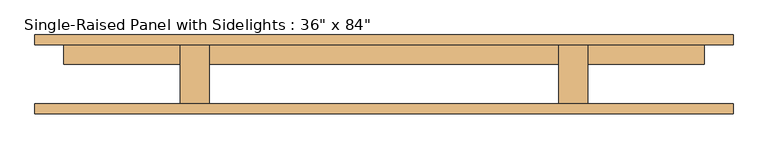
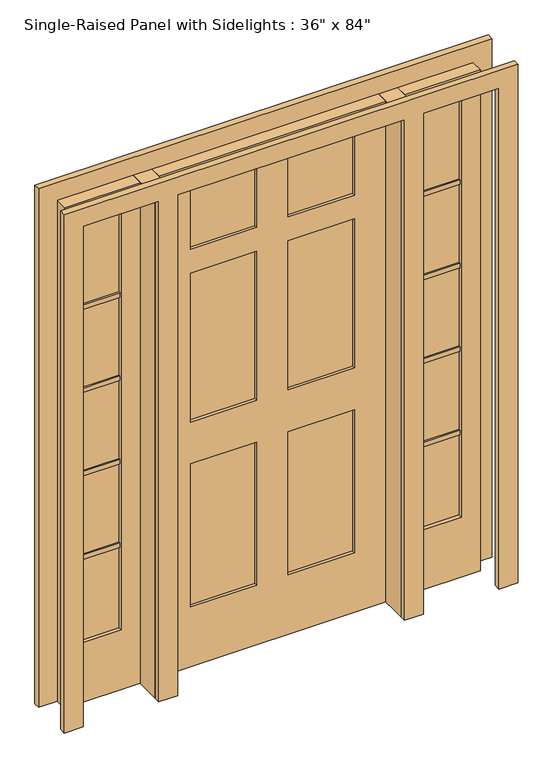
"""IFC4 building model written with IfcOpenShell, lengths in millimetres: door geometry."""

from ifc_helpers import new_model, si_unit, frame, origin, origin_with_axes, place, context, project, spatial, polyline, outline, extrude, source, transform, mapped, element, save


def door_5449110c(model_context):
    return source(origin(), model_context, "Body", "SweptSolid", [
        extrude(outline(polyline([(762.0, 36.5125), (609.6, 36.5125), (609.6, 68.2625), (762.0, 68.2625), (762.0, 36.5125)])), frame((0.0, 0.0, 600.075), z_axis=(0.0, 0.0, 1.0), x_axis=(1.0, 0.0, 0.0)), (0.0, 0.0, 1.0), 19.05),
        extrude(outline(polyline([(762.0, 36.5125), (609.6, 36.5125), (609.6, 68.2625), (762.0, 68.2625), (762.0, 36.5125)])), frame((0.0, 0.0, 955.675), z_axis=(0.0, 0.0, 1.0), x_axis=(1.0, 0.0, 0.0)), (0.0, 0.0, 1.0), 19.05),
        extrude(outline(polyline([(762.0, 36.5125), (609.6, 36.5125), (609.6, 68.2625), (762.0, 68.2625), (762.0, 36.5125)])), frame((0.0, 0.0, 1311.275), z_axis=(0.0, 0.0, 1.0), x_axis=(1.0, 0.0, 0.0)), (0.0, 0.0, 1.0), 19.05),
        extrude(outline(polyline([(762.0, 36.5125), (609.6, 36.5125), (609.6, 68.2625), (762.0, 68.2625), (762.0, 36.5125)])), frame((0.0, 0.0, 1666.875), z_axis=(0.0, 0.0, 1.0), x_axis=(1.0, 0.0, 0.0)), (0.0, 0.0, 1.0), 19.05),
        extrude(outline(polyline([(-609.6, 36.5125), (-762.0, 36.5125), (-762.0, 68.2625), (-609.6, 68.2625), (-609.6, 36.5125)])), frame((0.0, 0.0, 1666.875), z_axis=(0.0, 0.0, 1.0), x_axis=(1.0, 0.0, 0.0)), (0.0, 0.0, 1.0), 19.05),
        extrude(outline(polyline([(-609.6, 36.5125), (-762.0, 36.5125), (-762.0, 68.2625), (-609.6, 68.2625), (-609.6, 36.5125)])), frame((0.0, 0.0, 1311.275), z_axis=(0.0, 0.0, 1.0), x_axis=(1.0, 0.0, 0.0)), (0.0, 0.0, 1.0), 19.05),
        extrude(outline(polyline([(-609.6, 36.5125), (-762.0, 36.5125), (-762.0, 68.2625), (-609.6, 68.2625), (-609.6, 36.5125)])), frame((0.0, 0.0, 955.675), z_axis=(0.0, 0.0, 1.0), x_axis=(1.0, 0.0, 0.0)), (0.0, 0.0, 1.0), 19.05),
        extrude(outline(polyline([(-609.6, 36.5125), (-762.0, 36.5125), (-762.0, 68.2625), (-609.6, 68.2625), (-609.6, 36.5125)])), frame((0.0, 0.0, 600.075), z_axis=(0.0, 0.0, 1.0), x_axis=(1.0, 0.0, 0.0)), (0.0, 0.0, 1.0), 19.05),
        extrude(outline(polyline([(762.0, 42.8625), (609.6, 42.8625), (609.6, 61.9125), (762.0, 61.9125), (762.0, 42.8625)])), frame((0.0, 0.0, 254.0), z_axis=(0.0, 0.0, 1.0), x_axis=(1.0, 0.0, 0.0)), (0.0, 0.0, 1.0), 1778.0),
        extrude(outline(polyline([(-609.6, 42.8625), (-762.0, 42.8625), (-762.0, 61.9125), (-609.6, 61.9125), (-609.6, 42.8625)])), frame((0.0, 0.0, 254.0), z_axis=(0.0, 0.0, 1.0), x_axis=(1.0, 0.0, 0.0)), (0.0, 0.0, 1.0), 1778.0),
        extrude(outline(polyline([(-457.2, -77.7875), (-533.4, -77.7875), (-533.4, 77.7875), (-457.2, 77.7875), (-457.2, -77.7875)])), origin_with_axes(), (0.0, 0.0, 1.0), 2133.6),
        extrude(outline(polyline([(533.4, -77.7875), (457.2, -77.7875), (457.2, 77.7875), (533.4, 77.7875), (533.4, -77.7875)])), origin_with_axes(), (0.0, 0.0, 1.0), 2133.6),
        extrude(outline(polyline([(2133.6, -533.4), (2133.6, -838.2), (0.0, -838.2), (0.0, -533.4), (2133.6, -533.4)]), holes=[polyline([(2032.0, -609.6), (254.0, -609.6), (254.0, -762.0), (2032.0, -762.0), (2032.0, -609.6)])]), frame((0.0, 26.9875, 0.0), z_axis=(0.0, 1.0, 0.0), x_axis=(0.0, 0.0, 1.0)), (0.0, 0.0, 1.0), 50.8),
        extrude(outline(polyline([(0.0, 533.4), (0.0, 838.2), (2133.6, 838.2), (2133.6, 533.4), (0.0, 533.4)]), holes=[polyline([(2032.0, 762.0), (254.0, 762.0), (254.0, 609.6), (2032.0, 609.6), (2032.0, 762.0)])]), frame((0.0, 26.9875, 0.0), z_axis=(0.0, 1.0, 0.0), x_axis=(0.0, 0.0, 1.0)), (0.0, 0.0, 1.0), 50.8),
        extrude(outline(polyline([(0.0, -914.4), (0.0, -838.2), (2133.6, -838.2), (2133.6, -533.4), (0.0, -533.4), (0.0, -457.2), (2133.6, -457.2), (2133.6, 457.2), (0.0, 457.2), (0.0, 533.4), (2133.6, 533.4), (2133.6, 838.2), (0.0, 838.2), (0.0, 914.4), (2209.8, 914.4), (2209.8, -914.4), (0.0, -914.4)])), frame((0.0, -103.1875, 0.0), z_axis=(0.0, 1.0, 0.0), x_axis=(0.0, 0.0, 1.0)), (0.0, 0.0, 1.0), 25.4),
        extrude(outline(polyline([(0.0, 914.4), (2209.8, 914.4), (2209.8, -914.4), (0.0, -914.4), (0.0, -838.2), (2133.6, -838.2), (2133.6, -533.4), (0.0, -533.4), (0.0, -457.2), (2133.6, -457.2), (2133.6, 457.2), (0.0, 457.2), (0.0, 533.4), (2133.6, 533.4), (2133.6, 838.2), (0.0, 838.2), (0.0, 914.4)])), frame((0.0, 77.7875, 0.0), z_axis=(0.0, 1.0, 0.0), x_axis=(0.0, 0.0, 1.0)), (0.0, 0.0, 1.0), 25.4),
        extrude(outline(polyline([(-63.5, 39.6875), (-330.2, 39.6875), (-330.2, 65.0875), (-63.5, 65.0875), (-63.5, 39.6875)])), frame((0.0, 0.0, 1778.0), z_axis=(0.0, 0.0, 1.0), x_axis=(1.0, 0.0, 0.0)), (0.0, 0.0, 1.0), 254.0),
        extrude(outline(polyline([(330.2, 39.6875), (63.5, 39.6875), (63.5, 65.0875), (330.2, 65.0875), (330.2, 39.6875)])), frame((0.0, 0.0, 1778.0), z_axis=(0.0, 0.0, 1.0), x_axis=(1.0, 0.0, 0.0)), (0.0, 0.0, 1.0), 254.0),
        extrude(outline(polyline([(-63.5, 39.6875), (-330.2, 39.6875), (-330.2, 65.0875), (-63.5, 65.0875), (-63.5, 39.6875)])), frame((0.0, 0.0, 1041.4), z_axis=(0.0, 0.0, 1.0), x_axis=(1.0, 0.0, 0.0)), (0.0, 0.0, 1.0), 635.0),
        extrude(outline(polyline([(330.2, 39.6875), (63.5, 39.6875), (63.5, 65.0875), (330.2, 65.0875), (330.2, 39.6875)])), frame((0.0, 0.0, 1041.4), z_axis=(0.0, 0.0, 1.0), x_axis=(1.0, 0.0, 0.0)), (0.0, 0.0, 1.0), 635.0),
        extrude(outline(polyline([(-63.5, 39.6875), (-330.2, 39.6875), (-330.2, 65.0875), (-63.5, 65.0875), (-63.5, 39.6875)])), frame((0.0, 0.0, 254.0), z_axis=(0.0, 0.0, 1.0), x_axis=(1.0, 0.0, 0.0)), (0.0, 0.0, 1.0), 609.6),
        extrude(outline(polyline([(330.2, 39.6875), (63.5, 39.6875), (63.5, 65.0875), (330.2, 65.0875), (330.2, 39.6875)])), frame((0.0, 0.0, 254.0), z_axis=(0.0, 0.0, 1.0), x_axis=(1.0, 0.0, 0.0)), (0.0, 0.0, 1.0), 609.6),
        extrude(outline(polyline([(2133.6, 457.2), (2133.6, -457.2), (0.0, -457.2), (0.0, 457.2), (2133.6, 457.2)]), holes=[polyline([(2032.0, -63.5), (1778.0, -63.5), (1778.0, -330.2), (2032.0, -330.2), (2032.0, -63.5)]), polyline([(2032.0, 330.2), (1778.0, 330.2), (1778.0, 63.5), (2032.0, 63.5), (2032.0, 330.2)]), polyline([(1676.4, -63.5), (1041.4, -63.5), (1041.4, -330.2), (1676.4, -330.2), (1676.4, -63.5)]), polyline([(1676.4, 330.2), (1041.4, 330.2), (1041.4, 63.5), (1676.4, 63.5), (1676.4, 330.2)]), polyline([(863.6, -63.5), (254.0, -63.5), (254.0, -330.2), (863.6, -330.2), (863.6, -63.5)]), polyline([(863.6, 330.2), (254.0, 330.2), (254.0, 63.5), (863.6, 63.5), (863.6, 330.2)])]), frame((0.0, 26.9875, 0.0), z_axis=(0.0, 1.0, 0.0), x_axis=(0.0, 0.0, 1.0)), (0.0, 0.0, 1.0), 50.8),
    ])


if __name__ == "__main__":
    model = new_model("IFC4")
    model_context = context("Model", 3, world=origin())
    ifc_project = project(units=[si_unit("LENGTHUNIT", "METRE", prefix="MILLI")], contexts=[model_context])
    site = spatial("IfcSite", under=ifc_project)
    building = spatial("IfcBuilding", under=site)
    placement = place(None, origin())
    door_shape = door_5449110c(model_context)
    element("IfcDoor", 1, ObjectType="Single-Raised Panel with Sidelights : 36\" x 84\"", at=placement, inside=building, context=model_context, shape_type="MappedRepresentation", body=[
        mapped(door_shape, transform((0.0, 0.0, 0.0), x_axis=(1.0, 0.0, 0.0), y_axis=(0.0, 1.0, 0.0), z_axis=(0.0, 0.0, 1.0))),
    ])
    save(model, "model.ifc")
